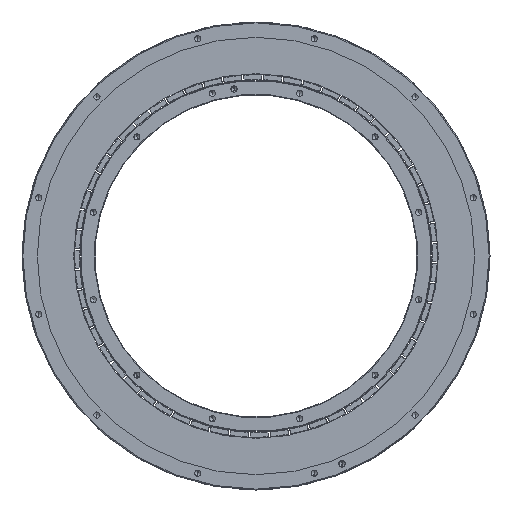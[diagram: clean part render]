
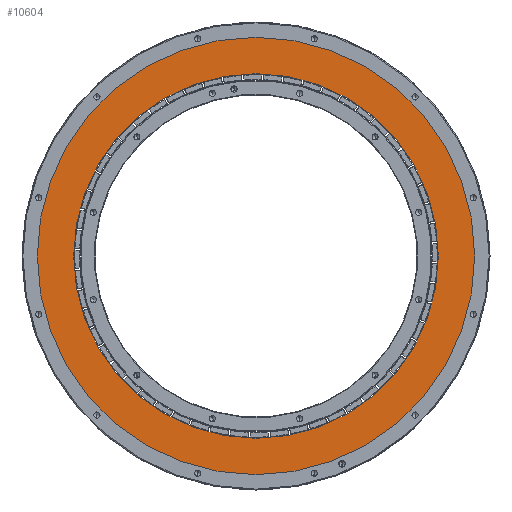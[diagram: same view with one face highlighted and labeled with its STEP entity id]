
A CAD part, front view. The second image highlights one B-rep face of the part: STEP entity #10604.
In plain terms, the highlighted planar face has unit normal (0, -1, 0).
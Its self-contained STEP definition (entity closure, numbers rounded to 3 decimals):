
#144 = CARTESIAN_POINT ( 'NONE',  ( 0., -64., 150. ) ) ;
#1357 = CARTESIAN_POINT ( 'NONE',  ( 0., -64., 0. ) ) ;
#2615 = EDGE_CURVE ( 'NONE', #13017, #51447, #42395, .T. ) ;
#3663 = EDGE_CURVE ( 'NONE', #22948, #4274, #8361, .T. ) ;
#4159 = AXIS2_PLACEMENT_3D ( 'NONE', #1357, #5285, #45462 ) ;
#4274 = VERTEX_POINT ( 'NONE', #21633 ) ;
#5285 = DIRECTION ( 'NONE',  ( 0., -1., 0. ) ) ;
#8192 = DIRECTION ( 'NONE',  ( 0., -1., 0. ) ) ;
#8361 = CIRCLE ( 'NONE', #29153, 179.93 ) ;
#8397 = CARTESIAN_POINT ( 'NONE',  ( 0., -64., 0. ) ) ;
#10604 = ADVANCED_FACE ( 'NONE', ( #43920, #31860 ), #47848, .T. ) ;
#11678 = ORIENTED_EDGE ( 'NONE', *, *, #28746, .T. ) ;
#12102 = CARTESIAN_POINT ( 'NONE',  ( 0., -64., 0. ) ) ;
#12635 = DIRECTION ( 'NONE',  ( 0., 0., -1. ) ) ;
#13017 = VERTEX_POINT ( 'NONE', #144 ) ;
#14166 = CIRCLE ( 'NONE', #4159, 150. ) ;
#14937 = AXIS2_PLACEMENT_3D ( 'NONE', #8397, #24282, #44141 ) ;
#15896 = AXIS2_PLACEMENT_3D ( 'NONE', #41102, #17112, #32981 ) ;
#17112 = DIRECTION ( 'NONE',  ( 0., -1., 0. ) ) ;
#18598 = ORIENTED_EDGE ( 'NONE', *, *, #34172, .F. ) ;
#19955 = AXIS2_PLACEMENT_3D ( 'NONE', #12102, #8192, #12635 ) ;
#21633 = CARTESIAN_POINT ( 'NONE',  ( 0., -64., 179.93 ) ) ;
#22948 = VERTEX_POINT ( 'NONE', #51566 ) ;
#24282 = DIRECTION ( 'NONE',  ( 0., -1., 0. ) ) ;
#28746 = EDGE_CURVE ( 'NONE', #4274, #22948, #42555, .T. ) ;
#29153 = AXIS2_PLACEMENT_3D ( 'NONE', #45197, #33636, #29733 ) ;
#29537 = ORIENTED_EDGE ( 'NONE', *, *, #3663, .T. ) ;
#29733 = DIRECTION ( 'NONE',  ( 0., 0., -1. ) ) ;
#31860 = FACE_OUTER_BOUND ( 'NONE', #39387, .T. ) ;
#32981 = DIRECTION ( 'NONE',  ( 0., 0., -1. ) ) ;
#33636 = DIRECTION ( 'NONE',  ( 0., -1., 0. ) ) ;
#34172 = EDGE_CURVE ( 'NONE', #51447, #13017, #14166, .T. ) ;
#35562 = CARTESIAN_POINT ( 'NONE',  ( 0., -64., -150. ) ) ;
#35835 = ORIENTED_EDGE ( 'NONE', *, *, #2615, .F. ) ;
#36349 = EDGE_LOOP ( 'NONE', ( #18598, #35835 ) ) ;
#39387 = EDGE_LOOP ( 'NONE', ( #29537, #11678 ) ) ;
#41102 = CARTESIAN_POINT ( 'NONE',  ( 0., -64., 0. ) ) ;
#42395 = CIRCLE ( 'NONE', #14937, 150. ) ;
#42555 = CIRCLE ( 'NONE', #15896, 179.93 ) ;
#43920 = FACE_BOUND ( 'NONE', #36349, .T. ) ;
#44141 = DIRECTION ( 'NONE',  ( 0., 0., -1. ) ) ;
#45197 = CARTESIAN_POINT ( 'NONE',  ( 0., -64., 0. ) ) ;
#45462 = DIRECTION ( 'NONE',  ( 0., 0., -1. ) ) ;
#47848 = PLANE ( 'NONE',  #19955 ) ;
#51447 = VERTEX_POINT ( 'NONE', #35562 ) ;
#51566 = CARTESIAN_POINT ( 'NONE',  ( 0., -64., -179.93 ) ) ;
